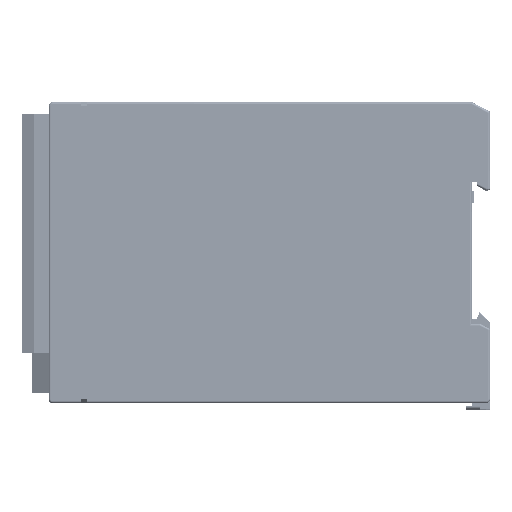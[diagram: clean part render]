
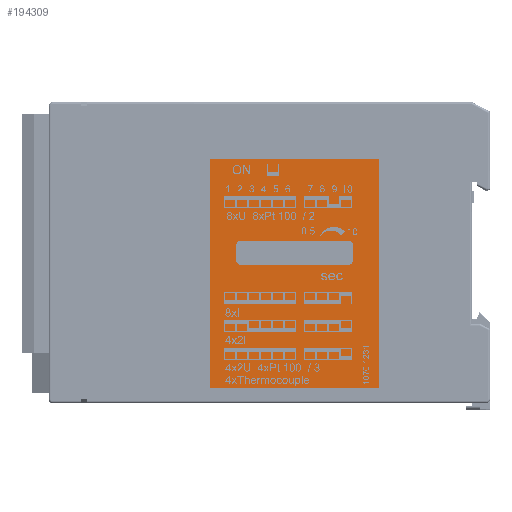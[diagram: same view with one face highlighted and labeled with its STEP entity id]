
A CAD part, top view. The second image highlights one B-rep face of the part: STEP entity #194309.
In plain terms, the highlighted planar face has unit normal (0, 0, 1) as drawn and (0, -1, 0) by its records, which use the part's own axes.
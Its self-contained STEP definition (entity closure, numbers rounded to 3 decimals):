
#1333 = DIRECTION ( 'NONE',  ( 0., -1., 0. ) ) ;
#7621 = VECTOR ( 'NONE', #159514, 1000. ) ;
#12067 = EDGE_LOOP ( 'NONE', ( #268016, #120902, #46656, #140696 ) ) ;
#12137 = DIRECTION ( 'NONE',  ( 0., -1., 0. ) ) ;
#16115 = LINE ( 'NONE', #235512, #177865 ) ;
#21216 = ORIENTED_EDGE ( 'NONE', *, *, #22460, .F. ) ;
#22460 = EDGE_CURVE ( 'NONE', #194698, #194507, #182581, .T. ) ;
#22729 = DIRECTION ( 'NONE',  ( 0., -1., 0. ) ) ;
#23880 = EDGE_CURVE ( 'NONE', #194507, #99577, #228172, .T. ) ;
#25341 = CARTESIAN_POINT ( 'NONE',  ( 0., -0.1, 0. ) ) ;
#25527 = VECTOR ( 'NONE', #70382, 1000. ) ;
#27033 = CARTESIAN_POINT ( 'NONE',  ( 0.801, -0.1, 23.2 ) ) ;
#28606 = VECTOR ( 'NONE', #104976, 1000. ) ;
#29022 = CARTESIAN_POINT ( 'NONE',  ( 8.301, -0.1, 3. ) ) ;
#31637 = EDGE_CURVE ( 'NONE', #132002, #194698, #35683, .T. ) ;
#32013 = VECTOR ( 'NONE', #183795, 1000. ) ;
#35015 = CARTESIAN_POINT ( 'NONE',  ( 0.801, -0.1, -33.8 ) ) ;
#35683 = CIRCLE ( 'NONE', #150017, 1. ) ;
#38940 = VERTEX_POINT ( 'NONE', #35015 ) ;
#41210 = CARTESIAN_POINT ( 'NONE',  ( 42.801, -0.1, 23.2 ) ) ;
#41404 = CARTESIAN_POINT ( 'NONE',  ( 42.801, -0.1, 23.2 ) ) ;
#41515 = EDGE_CURVE ( 'NONE', #60408, #223893, #103669, .T. ) ;
#44435 = CARTESIAN_POINT ( 'NONE',  ( 0.801, -0.1, -33.8 ) ) ;
#46465 = DIRECTION ( 'NONE',  ( 0., 0., -1. ) ) ;
#46656 = ORIENTED_EDGE ( 'NONE', *, *, #131472, .F. ) ;
#49909 = LINE ( 'NONE', #44435, #149009 ) ;
#51877 = VECTOR ( 'NONE', #236604, 1000. ) ;
#57339 = CARTESIAN_POINT ( 'NONE',  ( 0.801, -0.1, 23.2 ) ) ;
#60408 = VERTEX_POINT ( 'NONE', #29022 ) ;
#63747 = CARTESIAN_POINT ( 'NONE',  ( 36.301, -0.1, 2. ) ) ;
#65729 = DIRECTION ( 'NONE',  ( 1., 0., 0. ) ) ;
#66883 = CARTESIAN_POINT ( 'NONE',  ( 8.301, -0.1, 3. ) ) ;
#67112 = DIRECTION ( 'NONE',  ( 0., 0., 1. ) ) ;
#70382 = DIRECTION ( 'NONE',  ( 0., 0., -1. ) ) ;
#72647 = AXIS2_PLACEMENT_3D ( 'NONE', #149152, #22729, #170343 ) ;
#78067 = CARTESIAN_POINT ( 'NONE',  ( 36.301, -0.1, -2. ) ) ;
#78384 = FACE_OUTER_BOUND ( 'NONE', #12067, .T. ) ;
#82549 = ORIENTED_EDGE ( 'NONE', *, *, #41515, .F. ) ;
#83063 = EDGE_CURVE ( 'NONE', #223893, #132002, #16115, .T. ) ;
#84706 = LINE ( 'NONE', #41210, #28606 ) ;
#85091 = DIRECTION ( 'NONE',  ( 0., -1., 0. ) ) ;
#90743 = VERTEX_POINT ( 'NONE', #41404 ) ;
#91362 = VERTEX_POINT ( 'NONE', #180369 ) ;
#95809 = CARTESIAN_POINT ( 'NONE',  ( 7.301, -0.1, 2. ) ) ;
#95816 = CARTESIAN_POINT ( 'NONE',  ( 35.301, -0.1, 3. ) ) ;
#97658 = CARTESIAN_POINT ( 'NONE',  ( 8.301, -0.1, -3. ) ) ;
#99577 = VERTEX_POINT ( 'NONE', #78067 ) ;
#101452 = VERTEX_POINT ( 'NONE', #95816 ) ;
#101703 = EDGE_CURVE ( 'NONE', #173748, #101452, #129992, .T. ) ;
#103669 = CIRCLE ( 'NONE', #209250, 1. ) ;
#104976 = DIRECTION ( 'NONE',  ( 0., 0., -1. ) ) ;
#108010 = LINE ( 'NONE', #57339, #32013 ) ;
#120902 = ORIENTED_EDGE ( 'NONE', *, *, #258837, .T. ) ;
#122480 = EDGE_CURVE ( 'NONE', #91362, #38940, #144456, .T. ) ;
#124407 = EDGE_CURVE ( 'NONE', #99577, #173748, #255320, .T. ) ;
#125134 = EDGE_CURVE ( 'NONE', #91362, #90743, #108010, .T. ) ;
#127611 = CARTESIAN_POINT ( 'NONE',  ( 8.301, -0.1, -2. ) ) ;
#129992 = CIRCLE ( 'NONE', #72647, 1. ) ;
#131206 = DIRECTION ( 'NONE',  ( 0., 0., -1. ) ) ;
#131472 = EDGE_CURVE ( 'NONE', #90743, #265489, #84706, .T. ) ;
#132002 = VERTEX_POINT ( 'NONE', #213511 ) ;
#137778 = CARTESIAN_POINT ( 'NONE',  ( 35.301, -0.1, -3. ) ) ;
#138434 = CARTESIAN_POINT ( 'NONE',  ( 8.301, -0.1, 2. ) ) ;
#140126 = ORIENTED_EDGE ( 'NONE', *, *, #124407, .F. ) ;
#140696 = ORIENTED_EDGE ( 'NONE', *, *, #125134, .F. ) ;
#144456 = LINE ( 'NONE', #27033, #25527 ) ;
#146901 = CARTESIAN_POINT ( 'NONE',  ( 8.301, -0.1, -3. ) ) ;
#148958 = DIRECTION ( 'NONE',  ( 0., 0., -1. ) ) ;
#149009 = VECTOR ( 'NONE', #65729, 1000. ) ;
#149152 = CARTESIAN_POINT ( 'NONE',  ( 35.301, -0.1, 2. ) ) ;
#150017 = AXIS2_PLACEMENT_3D ( 'NONE', #127611, #1333, #148958 ) ;
#150616 = CARTESIAN_POINT ( 'NONE',  ( 42.801, -0.1, -33.8 ) ) ;
#159514 = DIRECTION ( 'NONE',  ( 1., 0., 0. ) ) ;
#159690 = DIRECTION ( 'NONE',  ( 0., 0., -1. ) ) ;
#163476 = ORIENTED_EDGE ( 'NONE', *, *, #83063, .F. ) ;
#164218 = LINE ( 'NONE', #66883, #51877 ) ;
#170343 = DIRECTION ( 'NONE',  ( 0., 0., 1. ) ) ;
#172073 = PLANE ( 'NONE',  #239449 ) ;
#172993 = DIRECTION ( 'NONE',  ( 0., -1., 0. ) ) ;
#173748 = VERTEX_POINT ( 'NONE', #63747 ) ;
#176061 = EDGE_LOOP ( 'NONE', ( #237647, #140126, #185263, #21216, #185115, #163476, #82549, #230290 ) ) ;
#177865 = VECTOR ( 'NONE', #131206, 1000. ) ;
#180369 = CARTESIAN_POINT ( 'NONE',  ( 0.801, -0.1, 23.2 ) ) ;
#182581 = LINE ( 'NONE', #97658, #7621 ) ;
#183795 = DIRECTION ( 'NONE',  ( 1., 0., 0. ) ) ;
#185115 = ORIENTED_EDGE ( 'NONE', *, *, #31637, .F. ) ;
#185263 = ORIENTED_EDGE ( 'NONE', *, *, #23880, .F. ) ;
#194309 = ADVANCED_FACE ( 'NONE', ( #240137, #78384 ), #172073, .T. ) ;
#194316 = EDGE_CURVE ( 'NONE', #101452, #60408, #164218, .T. ) ;
#194507 = VERTEX_POINT ( 'NONE', #137778 ) ;
#194698 = VERTEX_POINT ( 'NONE', #146901 ) ;
#199287 = VECTOR ( 'NONE', #67112, 1000. ) ;
#209250 = AXIS2_PLACEMENT_3D ( 'NONE', #138434, #12137, #159690 ) ;
#211553 = CARTESIAN_POINT ( 'NONE',  ( 35.301, -0.1, -2. ) ) ;
#213511 = CARTESIAN_POINT ( 'NONE',  ( 7.301, -0.1, -2. ) ) ;
#223893 = VERTEX_POINT ( 'NONE', #95809 ) ;
#228172 = CIRCLE ( 'NONE', #247348, 1. ) ;
#230290 = ORIENTED_EDGE ( 'NONE', *, *, #194316, .F. ) ;
#232684 = DIRECTION ( 'NONE',  ( 0., 0., -1. ) ) ;
#235512 = CARTESIAN_POINT ( 'NONE',  ( 7.301, -0.1, 2. ) ) ;
#236604 = DIRECTION ( 'NONE',  ( -1., 0., 0. ) ) ;
#237647 = ORIENTED_EDGE ( 'NONE', *, *, #101703, .F. ) ;
#239449 = AXIS2_PLACEMENT_3D ( 'NONE', #25341, #172993, #46465 ) ;
#240137 = FACE_BOUND ( 'NONE', #176061, .T. ) ;
#247348 = AXIS2_PLACEMENT_3D ( 'NONE', #211553, #85091, #232684 ) ;
#255320 = LINE ( 'NONE', #256165, #199287 ) ;
#256165 = CARTESIAN_POINT ( 'NONE',  ( 36.301, -0.1, 2. ) ) ;
#258837 = EDGE_CURVE ( 'NONE', #38940, #265489, #49909, .T. ) ;
#265489 = VERTEX_POINT ( 'NONE', #150616 ) ;
#268016 = ORIENTED_EDGE ( 'NONE', *, *, #122480, .T. ) ;
